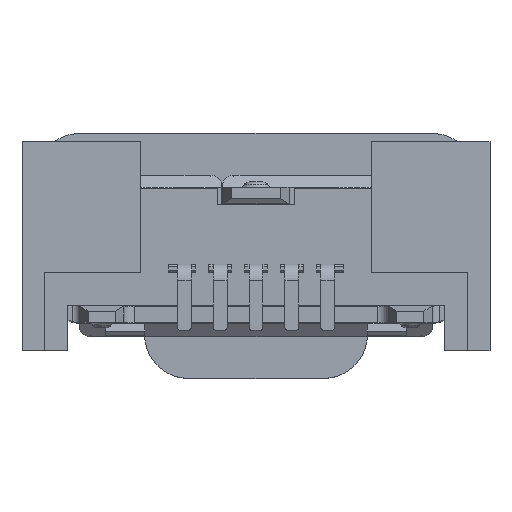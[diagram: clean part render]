
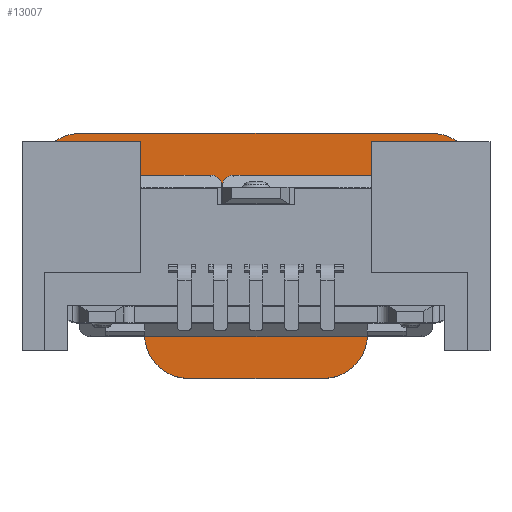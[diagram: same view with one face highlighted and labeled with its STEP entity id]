
A CAD part, top view. The second image highlights one B-rep face of the part: STEP entity #13007.
In plain terms, the highlighted planar face has unit normal (0, 0, 1).
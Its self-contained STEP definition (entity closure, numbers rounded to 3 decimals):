
#22=DIRECTION('',(1.,0.,0.));
#23=VECTOR('',#22,0.475);
#24=CARTESIAN_POINT('',(2.725,0.045,-5.931));
#25=LINE('',#24,#23);
#100=DIRECTION('',(0.,1.,0.));
#101=VECTOR('',#100,0.65);
#102=CARTESIAN_POINT('',(2.725,0.045,-5.931));
#103=LINE('',#102,#101);
#104=DIRECTION('',(0.,-1.,0.));
#105=VECTOR('',#104,0.65);
#106=CARTESIAN_POINT('',(2.025,0.695,-5.931));
#107=LINE('',#106,#105);
#108=DIRECTION('',(0.,-1.,0.));
#109=VECTOR('',#108,0.55);
#110=CARTESIAN_POINT('',(2.025,0.045,-5.931));
#111=LINE('',#110,#109);
#112=CARTESIAN_POINT('',(1.225,-0.505,-5.931));
#113=DIRECTION('',(0.,0.,1.));
#114=DIRECTION('',(0.,-1.,0.));
#115=AXIS2_PLACEMENT_3D('',#112,#113,#114);
#117=DIRECTION('',(-1.,0.,0.));
#118=VECTOR('',#117,2.45);
#119=CARTESIAN_POINT('',(1.225,-1.305,-5.931));
#120=LINE('',#119,#118);
#121=CARTESIAN_POINT('',(-1.225,-0.505,-5.931));
#122=DIRECTION('',(0.,0.,1.));
#123=DIRECTION('',(-1.,0.,0.));
#124=AXIS2_PLACEMENT_3D('',#121,#122,#123);
#126=CARTESIAN_POINT('',(-3.2,0.845,-5.931));
#127=DIRECTION('',(0.,0.,1.));
#128=DIRECTION('',(-1.,0.,0.));
#129=AXIS2_PLACEMENT_3D('',#126,#127,#128);
#131=DIRECTION('',(0.,1.,0.));
#132=VECTOR('',#131,1.5);
#133=CARTESIAN_POINT('',(-4.,0.845,-5.931));
#134=LINE('',#133,#132);
#135=CARTESIAN_POINT('',(-3.2,2.345,-5.931));
#136=DIRECTION('',(0.,0.,1.));
#137=DIRECTION('',(0.,1.,0.));
#138=AXIS2_PLACEMENT_3D('',#135,#136,#137);
#140=CARTESIAN_POINT('',(3.2,2.345,-5.931));
#141=DIRECTION('',(0.,0.,1.));
#142=DIRECTION('',(1.,0.,0.));
#143=AXIS2_PLACEMENT_3D('',#140,#141,#142);
#145=DIRECTION('',(0.,-1.,0.));
#146=VECTOR('',#145,1.5);
#147=CARTESIAN_POINT('',(4.,2.345,-5.931));
#148=LINE('',#147,#146);
#149=CARTESIAN_POINT('',(3.2,0.845,-5.931));
#150=DIRECTION('',(0.,0.,1.));
#151=DIRECTION('',(0.,-1.,0.));
#152=AXIS2_PLACEMENT_3D('',#149,#150,#151);
#203=DIRECTION('',(-1.,0.,0.));
#204=VECTOR('',#203,0.7);
#205=CARTESIAN_POINT('',(2.725,0.695,-5.931));
#206=LINE('',#205,#204);
#227=DIRECTION('',(0.,-1.,0.));
#228=VECTOR('',#227,0.55);
#229=CARTESIAN_POINT('',(-2.025,0.045,-5.931));
#230=LINE('',#229,#228);
#231=DIRECTION('',(1.,0.,0.));
#232=VECTOR('',#231,0.475);
#233=CARTESIAN_POINT('',(-3.2,0.045,-5.931));
#234=LINE('',#233,#232);
#275=DIRECTION('',(-1.,0.,0.));
#276=VECTOR('',#275,6.4);
#277=CARTESIAN_POINT('',(3.2,3.145,-5.931));
#278=LINE('',#277,#276);
#283=DIRECTION('',(0.,1.,0.));
#284=VECTOR('',#283,0.65);
#285=CARTESIAN_POINT('',(-2.725,0.045,-5.931));
#286=LINE('',#285,#284);
#312=DIRECTION('',(-1.,0.,0.));
#313=VECTOR('',#312,0.7);
#314=CARTESIAN_POINT('',(-2.025,0.695,-5.931));
#315=LINE('',#314,#313);
#329=DIRECTION('',(0.,-1.,0.));
#330=VECTOR('',#329,0.65);
#331=CARTESIAN_POINT('',(-2.025,0.695,-5.931));
#332=LINE('',#331,#330);
#9649=DIRECTION('',(1.,0.,0.));
#9650=VECTOR('',#9649,4.6);
#9651=CARTESIAN_POINT('',(-2.3,1.145,-5.931));
#9652=LINE('',#9651,#9650);
#9674=DIRECTION('',(0.,1.,0.));
#9675=VECTOR('',#9674,0.8);
#9676=CARTESIAN_POINT('',(-2.3,1.145,-5.931));
#9677=LINE('',#9676,#9675);
#9737=DIRECTION('',(-1.,0.,0.));
#9738=VECTOR('',#9737,4.6);
#9739=CARTESIAN_POINT('',(2.3,1.945,-5.931));
#9740=LINE('',#9739,#9738);
#9774=DIRECTION('',(0.,-1.,0.));
#9775=VECTOR('',#9774,0.8);
#9776=CARTESIAN_POINT('',(2.3,1.945,-5.931));
#9777=LINE('',#9776,#9775);
#9837=CARTESIAN_POINT('',(2.025,0.695,-5.931));
#9838=CARTESIAN_POINT('',(2.025,0.045,-5.931));
#9839=VERTEX_POINT('',#9837);
#9840=VERTEX_POINT('',#9838);
#9852=CARTESIAN_POINT('',(-4.,2.345,-5.931));
#9854=VERTEX_POINT('',#9852);
#9857=CARTESIAN_POINT('',(-4.,0.845,-5.931));
#9858=VERTEX_POINT('',#9857);
#9883=CARTESIAN_POINT('',(4.,2.345,-5.931));
#9884=VERTEX_POINT('',#9883);
#9885=CARTESIAN_POINT('',(4.,0.845,-5.931));
#9886=VERTEX_POINT('',#9885);
#9893=CARTESIAN_POINT('',(2.3,1.945,-5.931));
#9895=VERTEX_POINT('',#9893);
#9897=CARTESIAN_POINT('',(-2.3,1.945,-5.931));
#9898=VERTEX_POINT('',#9897);
#9916=CARTESIAN_POINT('',(-2.3,1.145,-5.931));
#9917=VERTEX_POINT('',#9916);
#9930=CARTESIAN_POINT('',(-3.2,0.045,-5.931));
#9931=CARTESIAN_POINT('',(-2.725,0.045,-5.931));
#9932=VERTEX_POINT('',#9930);
#9933=VERTEX_POINT('',#9931);
#9934=CARTESIAN_POINT('',(-2.025,0.045,-5.931));
#9935=VERTEX_POINT('',#9934);
#9950=CARTESIAN_POINT('',(2.725,0.045,-5.931));
#9951=VERTEX_POINT('',#9950);
#9952=CARTESIAN_POINT('',(2.725,0.695,-5.931));
#9953=VERTEX_POINT('',#9952);
#9954=CARTESIAN_POINT('',(-2.725,0.695,-5.931));
#9955=VERTEX_POINT('',#9954);
#9984=CARTESIAN_POINT('',(-2.025,0.695,-5.931));
#9985=VERTEX_POINT('',#9984);
#9990=CARTESIAN_POINT('',(2.025,-0.505,-5.931));
#9991=VERTEX_POINT('',#9990);
#9992=CARTESIAN_POINT('',(2.3,1.145,-5.931));
#9993=VERTEX_POINT('',#9992);
#9994=CARTESIAN_POINT('',(3.2,0.045,-5.931));
#9995=VERTEX_POINT('',#9994);
#9996=CARTESIAN_POINT('',(3.2,3.145,-5.931));
#9997=VERTEX_POINT('',#9996);
#9998=CARTESIAN_POINT('',(-3.2,3.145,-5.931));
#9999=VERTEX_POINT('',#9998);
#10000=CARTESIAN_POINT('',(-2.025,-0.505,-5.931));
#10001=VERTEX_POINT('',#10000);
#10002=CARTESIAN_POINT('',(-1.225,-1.305,-5.931));
#10003=VERTEX_POINT('',#10002);
#10004=CARTESIAN_POINT('',(1.225,-1.305,-5.931));
#10005=VERTEX_POINT('',#10004);
#12954=CARTESIAN_POINT('',(-2.3,1.295,-5.931));
#12955=DIRECTION('',(0.,0.,-1.));
#12956=DIRECTION('',(1.,0.,0.));
#12957=AXIS2_PLACEMENT_3D('',#12954,#12955,#12956);
#12958=PLANE('',#12957);
#12960=ORIENTED_EDGE('',*,*,#12959,.T.);
#12962=ORIENTED_EDGE('',*,*,#12961,.T.);
#12963=ORIENTED_EDGE('',*,*,#12844,.T.);
#12964=ORIENTED_EDGE('',*,*,#12899,.T.);
#12966=ORIENTED_EDGE('',*,*,#12965,.F.);
#12968=ORIENTED_EDGE('',*,*,#12967,.T.);
#12970=ORIENTED_EDGE('',*,*,#12969,.F.);
#12972=ORIENTED_EDGE('',*,*,#12971,.F.);
#12974=ORIENTED_EDGE('',*,*,#12973,.F.);
#12976=ORIENTED_EDGE('',*,*,#12975,.T.);
#12978=ORIENTED_EDGE('',*,*,#12977,.F.);
#12980=ORIENTED_EDGE('',*,*,#12979,.F.);
#12982=ORIENTED_EDGE('',*,*,#12981,.F.);
#12984=ORIENTED_EDGE('',*,*,#12983,.T.);
#12986=ORIENTED_EDGE('',*,*,#12985,.F.);
#12988=ORIENTED_EDGE('',*,*,#12987,.F.);
#12989=ORIENTED_EDGE('',*,*,#12944,.F.);
#12991=ORIENTED_EDGE('',*,*,#12990,.T.);
#12993=ORIENTED_EDGE('',*,*,#12992,.F.);
#12994=ORIENTED_EDGE('',*,*,#12871,.F.);
#12995=EDGE_LOOP('',(#12960,#12962,#12963,#12964,#12966,#12968,#12970,#12972,
#12974,#12976,#12978,#12980,#12982,#12984,#12986,#12988,#12989,#12991,#12993,
#12994));
#12996=FACE_OUTER_BOUND('',#12995,.F.);
#12998=ORIENTED_EDGE('',*,*,#12997,.T.);
#13000=ORIENTED_EDGE('',*,*,#12999,.F.);
#13002=ORIENTED_EDGE('',*,*,#13001,.T.);
#13004=ORIENTED_EDGE('',*,*,#13003,.F.);
#13005=EDGE_LOOP('',(#12998,#13000,#13002,#13004));
#13006=FACE_BOUND('',#13005,.F.);
#13007=ADVANCED_FACE('',(#12996,#13006),#12958,.F.);
#116=CIRCLE('',#115,0.8);
#125=CIRCLE('',#124,0.8);
#130=CIRCLE('',#129,0.8);
#139=CIRCLE('',#138,0.8);
#144=CIRCLE('',#143,0.8);
#153=CIRCLE('',#152,0.8);
#12844=EDGE_CURVE('',#9839,#9840,#107,.T.);
#12871=EDGE_CURVE('',#9951,#9995,#25,.T.);
#12899=EDGE_CURVE('',#9840,#9991,#111,.T.);
#12944=EDGE_CURVE('',#9884,#9997,#144,.T.);
#12959=EDGE_CURVE('',#9951,#9953,#103,.T.);
#12961=EDGE_CURVE('',#9953,#9839,#206,.T.);
#12965=EDGE_CURVE('',#10005,#9991,#116,.T.);
#12967=EDGE_CURVE('',#10005,#10003,#120,.T.);
#12969=EDGE_CURVE('',#10001,#10003,#125,.T.);
#12971=EDGE_CURVE('',#9935,#10001,#230,.T.);
#12973=EDGE_CURVE('',#9985,#9935,#332,.T.);
#12975=EDGE_CURVE('',#9985,#9955,#315,.T.);
#12977=EDGE_CURVE('',#9933,#9955,#286,.T.);
#12979=EDGE_CURVE('',#9932,#9933,#234,.T.);
#12981=EDGE_CURVE('',#9858,#9932,#130,.T.);
#12983=EDGE_CURVE('',#9858,#9854,#134,.T.);
#12985=EDGE_CURVE('',#9999,#9854,#139,.T.);
#12987=EDGE_CURVE('',#9997,#9999,#278,.T.);
#12990=EDGE_CURVE('',#9884,#9886,#148,.T.);
#12992=EDGE_CURVE('',#9995,#9886,#153,.T.);
#12997=EDGE_CURVE('',#9917,#9993,#9652,.T.);
#12999=EDGE_CURVE('',#9895,#9993,#9777,.T.);
#13001=EDGE_CURVE('',#9895,#9898,#9740,.T.);
#13003=EDGE_CURVE('',#9917,#9898,#9677,.T.);
